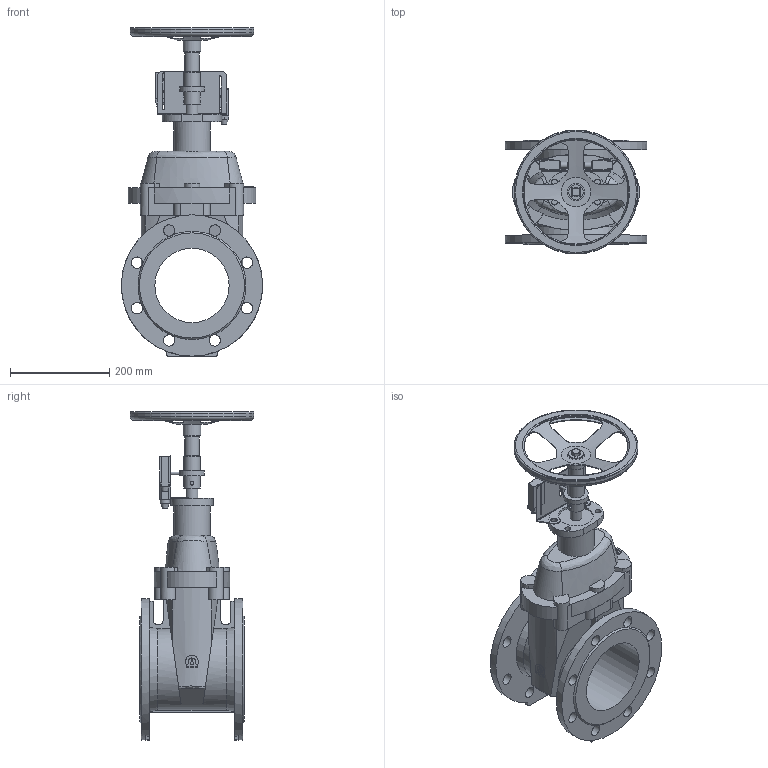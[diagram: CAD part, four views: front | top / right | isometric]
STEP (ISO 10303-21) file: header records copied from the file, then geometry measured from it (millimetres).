
FILE_DESCRIPTION(('STEP AP203'), '1');
FILE_NAME('Çàäâèæêà 47GV.M DN150 ñ ìàõîâèêîì è ÓÊÏ', '', ('UNSPECIFIED'), ('UNSPECIFIED'), 'ASCON STEP Converter 1.6', 'ASCON Math Kernel', '');
FILE_SCHEMA(('CONFIG_CONTROL_DESIGN'));
Length unit declared in the file: millimetre
Bounding box: 285 x 250 x 663 mm (x, y, z)
Volume: 7350406.7 mm3; surface area: 753620 mm2
Topology: 4 solids, 4 shells, 458 faces, 1217 edges, 775 vertices
Faces by surface type: plane 234, cylinder 183, cone 19, bspline 10, torus 8, sphere 4
Full cylindrical faces by diameter (mm): 4 x4, 4.917 x1, 6 x1, 8 x2, 12 x8, 13 x2, 14 x2, 23 x16, 24 x1, 30 x2, 33 x2, 35 x1, 50 x1, 70 x1, 73 x1, 150 x1, 213 x1, 247 x1, 250 x1, 285 x2
Entity records: 24546 total; most frequent: CARTESIAN_POINT 9678, DIRECTION 2292, ORIENTED_EDGE 2282, EDGE_CURVE 1141, AXIS2_PLACEMENT_3D 880, VERTEX_POINT 775, EDGE_LOOP 606, LINE 532
